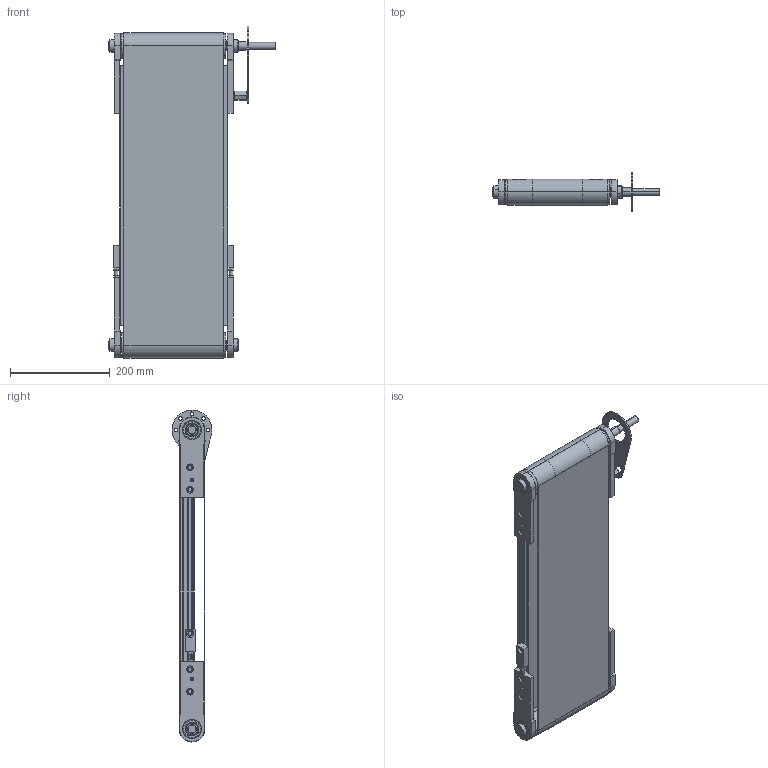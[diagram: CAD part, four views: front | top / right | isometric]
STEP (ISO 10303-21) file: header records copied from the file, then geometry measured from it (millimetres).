
FILE_DESCRIPTION (( 'STEP AP203' ), '1' );
FILE_NAME ('1000.50.30.STEP', '2018-03-12T15:33:37', ( '' ), ( '' ), 'SwSTEP 2.0', 'SolidWorks 2016', '' );
FILE_SCHEMA (( 'CONFIG_CONTROL_DESIGN' ));
Length unit declared in the file: millimetre
Products named in the file (11): 1000.50.00.012; 084.807.005; 1000.50.00.006_1000.50.00.004; 084.802.008; 084.802.017_084.802.017; 1000.50.00.011; 1000.50.30; 1000.50.30_TELAIO_Default<A macchina>; 084.802.027; 1000.50.00.005_1000.50.00.004; 1000.50.30_TAPPETO
Assembly tree (16 placements, depth 2):
  1000.50.30
    1000.50.30_TELAIO_Default<A macchina>
    1000.50.00.006_1000.50.00.004  x2
    1000.50.00.005_1000.50.00.004  x2
    084.802.008  x2
    1000.50.00.012
    084.802.017_084.802.017  x4
    084.807.005
    1000.50.30_TAPPETO
    084.802.027
    1000.50.00.011
Bounding box: 335 x 80 x 666 mm (x, y, z)
Volume: 2112458.3 mm3; surface area: 1473171.6 mm2
Topology: 26 solids, 30 shells, 753 faces, 1934 edges, 1243 vertices
Faces by surface type: plane 363, cylinder 284, cone 50, torus 40, sphere 16
Entity records: 16179 total; most frequent: CARTESIAN_POINT 2872, DIRECTION 2600, ORIENTED_EDGE 2432, EDGE_CURVE 1216, AXIS2_PLACEMENT_3D 940, VERTEX_POINT 792, LINE 720, VECTOR 720
